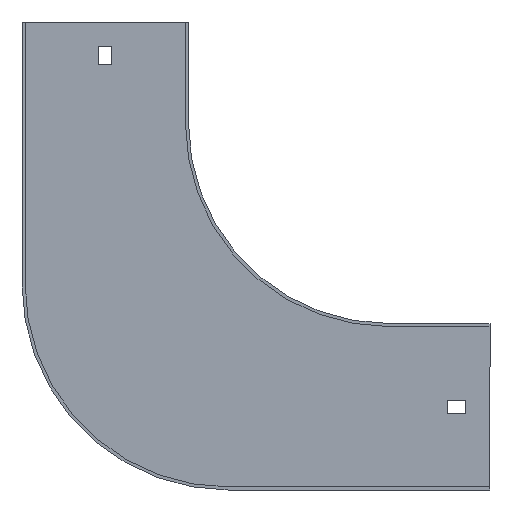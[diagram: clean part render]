
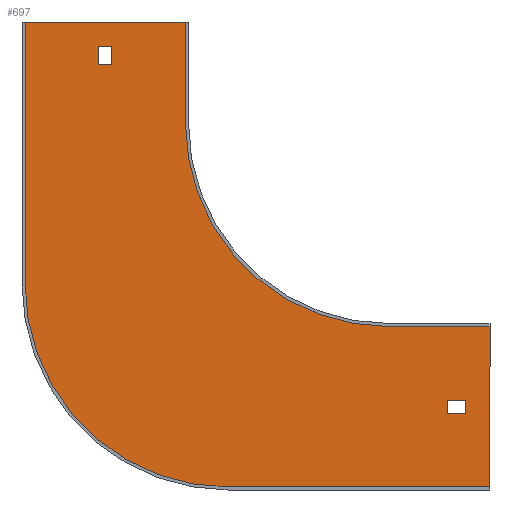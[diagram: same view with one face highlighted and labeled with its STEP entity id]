
A CAD part, front view. The second image highlights one B-rep face of the part: STEP entity #697.
In plain terms, the highlighted planar face has unit normal (0, -1, 0).
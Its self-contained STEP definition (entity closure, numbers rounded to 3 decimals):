
#8 = EDGE_CURVE ( 'NONE', #238, #485, #40, .T. ) ;
#32 = DIRECTION ( 'NONE',  ( 1., 0., 0. ) ) ;
#33 = FACE_BOUND ( 'NONE', #245, .T. ) ;
#40 = CIRCLE ( 'NONE', #219, 100. ) ;
#41 = VECTOR ( 'NONE', #167, 1000. ) ;
#47 = VERTEX_POINT ( 'NONE', #522 ) ;
#58 = VECTOR ( 'NONE', #169, 1000. ) ;
#61 = ORIENTED_EDGE ( 'NONE', *, *, #431, .F. ) ;
#62 = DIRECTION ( 'NONE',  ( 0., 1., 0. ) ) ;
#64 = CARTESIAN_POINT ( 'NONE',  ( -136.25, -1.5, 38. ) ) ;
#76 = LINE ( 'NONE', #210, #249 ) ;
#98 = FACE_BOUND ( 'NONE', #182, .T. ) ;
#107 = LINE ( 'NONE', #709, #701 ) ;
#109 = AXIS2_PLACEMENT_3D ( 'NONE', #411, #62, #676 ) ;
#110 = VERTEX_POINT ( 'NONE', #630 ) ;
#114 = DIRECTION ( 'NONE',  ( 0., 0., -1. ) ) ;
#115 = ORIENTED_EDGE ( 'NONE', *, *, #644, .F. ) ;
#116 = CARTESIAN_POINT ( 'NONE',  ( 29., -1.5, 0. ) ) ;
#118 = DIRECTION ( 'NONE',  ( -1., 0., 0. ) ) ;
#119 = ORIENTED_EDGE ( 'NONE', *, *, #615, .F. ) ;
#125 = LINE ( 'NONE', #116, #668 ) ;
#136 = VECTOR ( 'NONE', #202, 1000. ) ;
#137 = VERTEX_POINT ( 'NONE', #227 ) ;
#144 = VERTEX_POINT ( 'NONE', #163 ) ;
#150 = ORIENTED_EDGE ( 'NONE', *, *, #613, .T. ) ;
#161 = CARTESIAN_POINT ( 'NONE',  ( 38., -1.5, -142.75 ) ) ;
#163 = CARTESIAN_POINT ( 'NONE',  ( -179., -1.5, -79. ) ) ;
#167 = DIRECTION ( 'NONE',  ( 0., 0., 1. ) ) ;
#169 = DIRECTION ( 'NONE',  ( 1., 0., 0. ) ) ;
#170 = VERTEX_POINT ( 'NONE', #388 ) ;
#171 = CARTESIAN_POINT ( 'NONE',  ( -142.75, -1.5, 29. ) ) ;
#176 = EDGE_CURVE ( 'NONE', #199, #746, #393, .T. ) ;
#182 = EDGE_LOOP ( 'NONE', ( #622, #115, #349, #619 ) ) ;
#188 = CARTESIAN_POINT ( 'NONE',  ( 29., -1.5, -142.75 ) ) ;
#190 = DIRECTION ( 'NONE',  ( 0., -1., 0. ) ) ;
#195 = DIRECTION ( 'NONE',  ( 0., 0., -1. ) ) ;
#199 = VERTEX_POINT ( 'NONE', #171 ) ;
#202 = DIRECTION ( 'NONE',  ( -1., 0., 0. ) ) ;
#208 = EDGE_CURVE ( 'NONE', #281, #721, #727, .T. ) ;
#210 = CARTESIAN_POINT ( 'NONE',  ( -100., -1.5, 50. ) ) ;
#219 = AXIS2_PLACEMENT_3D ( 'NONE', #452, #599, #800 ) ;
#226 = VERTEX_POINT ( 'NONE', #188 ) ;
#227 = CARTESIAN_POINT ( 'NONE',  ( 29., -1.5, -136.25 ) ) ;
#238 = VERTEX_POINT ( 'NONE', #243 ) ;
#243 = CARTESIAN_POINT ( 'NONE',  ( -100., -1.5, 0. ) ) ;
#245 = EDGE_LOOP ( 'NONE', ( #150, #344, #476, #541 ) ) ;
#247 = EDGE_CURVE ( 'NONE', #137, #226, #125, .T. ) ;
#249 = VECTOR ( 'NONE', #195, 1000. ) ;
#251 = DIRECTION ( 'NONE',  ( 0., 0., 1. ) ) ;
#254 = CARTESIAN_POINT ( 'NONE',  ( -142.75, -1.5, 38. ) ) ;
#256 = ORIENTED_EDGE ( 'NONE', *, *, #366, .F. ) ;
#263 = CARTESIAN_POINT ( 'NONE',  ( 50., -1.5, -179. ) ) ;
#270 = DIRECTION ( 'NONE',  ( 1., 0., 0. ) ) ;
#276 = LINE ( 'NONE', #813, #136 ) ;
#281 = VERTEX_POINT ( 'NONE', #381 ) ;
#302 = PLANE ( 'NONE',  #623 ) ;
#314 = CARTESIAN_POINT ( 'NONE',  ( -142.75, -1.5, 0. ) ) ;
#315 = CARTESIAN_POINT ( 'NONE',  ( -100., -1.5, 50. ) ) ;
#344 = ORIENTED_EDGE ( 'NONE', *, *, #683, .T. ) ;
#349 = ORIENTED_EDGE ( 'NONE', *, *, #470, .F. ) ;
#366 = EDGE_CURVE ( 'NONE', #680, #238, #76, .T. ) ;
#371 = FACE_OUTER_BOUND ( 'NONE', #788, .T. ) ;
#381 = CARTESIAN_POINT ( 'NONE',  ( 50., -1.5, -100. ) ) ;
#388 = CARTESIAN_POINT ( 'NONE',  ( -136.25, -1.5, 29. ) ) ;
#389 = CARTESIAN_POINT ( 'NONE',  ( 50., -1.5, -179. ) ) ;
#393 = LINE ( 'NONE', #314, #758 ) ;
#402 = EDGE_CURVE ( 'NONE', #454, #144, #852, .T. ) ;
#403 = DIRECTION ( 'NONE',  ( -1., 0., 0. ) ) ;
#411 = CARTESIAN_POINT ( 'NONE',  ( -79., -1.5, -79. ) ) ;
#428 = CARTESIAN_POINT ( 'NONE',  ( 0., -1.5, -142.75 ) ) ;
#430 = CARTESIAN_POINT ( 'NONE',  ( -136.25, -1.5, 0. ) ) ;
#431 = EDGE_CURVE ( 'NONE', #485, #281, #674, .T. ) ;
#451 = EDGE_CURVE ( 'NONE', #170, #199, #276, .T. ) ;
#452 = CARTESIAN_POINT ( 'NONE',  ( 0., -1.5, 0. ) ) ;
#453 = CARTESIAN_POINT ( 'NONE',  ( 0., -1.5, -136.25 ) ) ;
#454 = VERTEX_POINT ( 'NONE', #478 ) ;
#469 = VERTEX_POINT ( 'NONE', #161 ) ;
#470 = EDGE_CURVE ( 'NONE', #226, #469, #692, .T. ) ;
#476 = ORIENTED_EDGE ( 'NONE', *, *, #451, .T. ) ;
#478 = CARTESIAN_POINT ( 'NONE',  ( -79., -1.5, -179. ) ) ;
#485 = VERTEX_POINT ( 'NONE', #551 ) ;
#522 = CARTESIAN_POINT ( 'NONE',  ( -179., -1.5, 50. ) ) ;
#532 = VECTOR ( 'NONE', #698, 1000. ) ;
#541 = ORIENTED_EDGE ( 'NONE', *, *, #176, .T. ) ;
#551 = CARTESIAN_POINT ( 'NONE',  ( 0., -1.5, -100. ) ) ;
#566 = LINE ( 'NONE', #787, #592 ) ;
#569 = ORIENTED_EDGE ( 'NONE', *, *, #8, .F. ) ;
#573 = DIRECTION ( 'NONE',  ( 1., 0., 0. ) ) ;
#574 = ORIENTED_EDGE ( 'NONE', *, *, #208, .F. ) ;
#576 = VECTOR ( 'NONE', #270, 1000. ) ;
#581 = LINE ( 'NONE', #430, #532 ) ;
#585 = EDGE_CURVE ( 'NONE', #47, #680, #107, .T. ) ;
#589 = DIRECTION ( 'NONE',  ( 0., 0., -1. ) ) ;
#592 = VECTOR ( 'NONE', #765, 1000. ) ;
#594 = ORIENTED_EDGE ( 'NONE', *, *, #402, .F. ) ;
#599 = DIRECTION ( 'NONE',  ( 0., -1., 0. ) ) ;
#605 = CARTESIAN_POINT ( 'NONE',  ( 0., -1.5, -100. ) ) ;
#613 = EDGE_CURVE ( 'NONE', #746, #770, #778, .T. ) ;
#615 = EDGE_CURVE ( 'NONE', #144, #47, #566, .T. ) ;
#619 = ORIENTED_EDGE ( 'NONE', *, *, #247, .F. ) ;
#622 = ORIENTED_EDGE ( 'NONE', *, *, #808, .F. ) ;
#623 = AXIS2_PLACEMENT_3D ( 'NONE', #856, #190, #114 ) ;
#630 = CARTESIAN_POINT ( 'NONE',  ( 38., -1.5, -136.25 ) ) ;
#638 = VECTOR ( 'NONE', #403, 1000. ) ;
#644 = EDGE_CURVE ( 'NONE', #469, #110, #771, .T. ) ;
#650 = CARTESIAN_POINT ( 'NONE',  ( 38., -1.5, 0. ) ) ;
#668 = VECTOR ( 'NONE', #672, 1000. ) ;
#672 = DIRECTION ( 'NONE',  ( 0., 0., -1. ) ) ;
#674 = LINE ( 'NONE', #605, #576 ) ;
#676 = DIRECTION ( 'NONE',  ( 0., 0., -1. ) ) ;
#680 = VERTEX_POINT ( 'NONE', #315 ) ;
#683 = EDGE_CURVE ( 'NONE', #770, #170, #581, .T. ) ;
#692 = LINE ( 'NONE', #428, #745 ) ;
#697 = ADVANCED_FACE ( 'NONE', ( #98, #371, #33 ), #302, .T. ) ;
#698 = DIRECTION ( 'NONE',  ( 0., 0., -1. ) ) ;
#701 = VECTOR ( 'NONE', #573, 1000. ) ;
#709 = CARTESIAN_POINT ( 'NONE',  ( -180.5, -1.5, 50. ) ) ;
#719 = ORIENTED_EDGE ( 'NONE', *, *, #747, .F. ) ;
#721 = VERTEX_POINT ( 'NONE', #389 ) ;
#722 = CARTESIAN_POINT ( 'NONE',  ( 50., -1.5, -98.5 ) ) ;
#727 = LINE ( 'NONE', #722, #849 ) ;
#731 = VECTOR ( 'NONE', #118, 1000. ) ;
#736 = LINE ( 'NONE', #263, #638 ) ;
#745 = VECTOR ( 'NONE', #32, 1000. ) ;
#746 = VERTEX_POINT ( 'NONE', #254 ) ;
#747 = EDGE_CURVE ( 'NONE', #721, #454, #736, .T. ) ;
#758 = VECTOR ( 'NONE', #251, 1000. ) ;
#765 = DIRECTION ( 'NONE',  ( 0., 0., 1. ) ) ;
#770 = VERTEX_POINT ( 'NONE', #64 ) ;
#771 = LINE ( 'NONE', #650, #41 ) ;
#773 = ORIENTED_EDGE ( 'NONE', *, *, #585, .F. ) ;
#778 = LINE ( 'NONE', #836, #58 ) ;
#787 = CARTESIAN_POINT ( 'NONE',  ( -179., -1.5, -79. ) ) ;
#788 = EDGE_LOOP ( 'NONE', ( #773, #119, #594, #719, #574, #61, #569, #256 ) ) ;
#800 = DIRECTION ( 'NONE',  ( 0., 0., -1. ) ) ;
#808 = EDGE_CURVE ( 'NONE', #110, #137, #847, .T. ) ;
#813 = CARTESIAN_POINT ( 'NONE',  ( 0., -1.5, 29. ) ) ;
#836 = CARTESIAN_POINT ( 'NONE',  ( 0., -1.5, 38. ) ) ;
#847 = LINE ( 'NONE', #453, #731 ) ;
#849 = VECTOR ( 'NONE', #589, 1000. ) ;
#852 = CIRCLE ( 'NONE', #109, 100. ) ;
#856 = CARTESIAN_POINT ( 'NONE',  ( 0., -1.5, 0. ) ) ;
